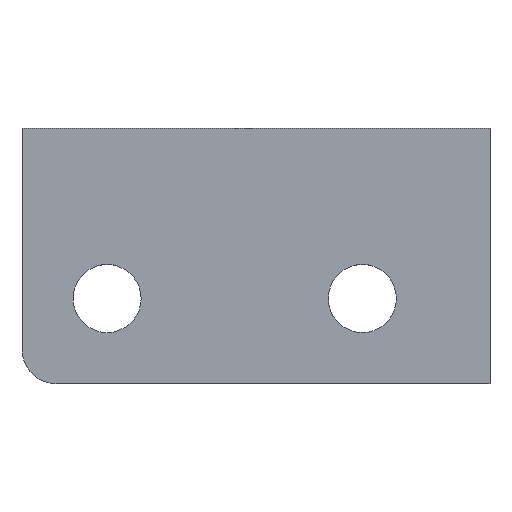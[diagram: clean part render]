
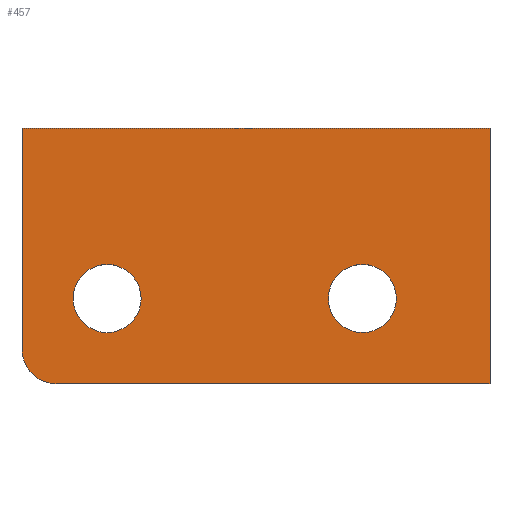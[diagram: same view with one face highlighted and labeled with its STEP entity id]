
A CAD part, top view. The second image highlights one B-rep face of the part: STEP entity #457.
In plain terms, the highlighted planar face has unit normal (0, 0, 1).
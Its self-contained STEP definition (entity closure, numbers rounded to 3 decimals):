
#218=CIRCLE('',#440,8.);
#219=CIRCLE('',#441,8.);
#220=CIRCLE('',#442,8.);
#236=ORIENTED_EDGE('',*,*,#311,.F.);
#237=ORIENTED_EDGE('',*,*,#312,.T.);
#238=ORIENTED_EDGE('',*,*,#301,.T.);
#239=ORIENTED_EDGE('',*,*,#309,.F.);
#240=ORIENTED_EDGE('',*,*,#313,.T.);
#241=ORIENTED_EDGE('',*,*,#314,.F.);
#242=ORIENTED_EDGE('',*,*,#315,.F.);
#261=VECTOR('',#352,1.);
#266=VECTOR('',#367,1.);
#268=VECTOR('',#371,1.);
#269=VECTOR('',#372,1.);
#274=LINE('',#398,#261);
#279=LINE('',#414,#266);
#281=LINE('',#419,#268);
#282=LINE('',#420,#269);
#287=VERTEX_POINT('',#395);
#288=VERTEX_POINT('',#397);
#294=VERTEX_POINT('',#413);
#295=VERTEX_POINT('',#417);
#296=VERTEX_POINT('',#418);
#297=VERTEX_POINT('',#422);
#298=VERTEX_POINT('',#424);
#301=EDGE_CURVE('',#288,#287,#274,.T.);
#309=EDGE_CURVE('',#294,#287,#279,.T.);
#311=EDGE_CURVE('',#295,#296,#281,.T.);
#312=EDGE_CURVE('',#295,#288,#282,.T.);
#313=EDGE_CURVE('',#294,#296,#218,.T.);
#314=EDGE_CURVE('',#297,#297,#219,.T.);
#315=EDGE_CURVE('',#298,#298,#220,.T.);
#323=EDGE_LOOP('',(#236,#237,#238,#239,#240));
#324=EDGE_LOOP('',(#241));
#325=EDGE_LOOP('',(#242));
#338=FACE_BOUND('',#323,.T.);
#339=FACE_BOUND('',#324,.T.);
#340=FACE_BOUND('',#325,.T.);
#352=DIRECTION('',(-110.,0.,0.));
#367=DIRECTION('',(0.,52.,0.));
#369=DIRECTION('',(0.,0.,1.));
#370=DIRECTION('',(0.,-1.,0.));
#371=DIRECTION('',(-102.,0.,0.));
#372=DIRECTION('',(0.,60.,0.));
#373=DIRECTION('',(0.,0.,1.));
#374=DIRECTION('',(0.,-8.,0.));
#375=DIRECTION('',(0.,0.,1.));
#376=DIRECTION('',(0.,-8.,0.));
#377=DIRECTION('',(0.,0.,1.));
#378=DIRECTION('',(0.,-8.,0.));
#395=CARTESIAN_POINT('',(0.,30.,4.));
#397=CARTESIAN_POINT('',(110.,30.,4.));
#398=CARTESIAN_POINT('',(110.,30.,4.));
#413=CARTESIAN_POINT('',(0.,-22.,4.));
#414=CARTESIAN_POINT('',(0.,-22.,4.));
#416=CARTESIAN_POINT('',(110.,30.,4.));
#417=CARTESIAN_POINT('',(110.,-30.,4.));
#418=CARTESIAN_POINT('',(8.,-30.,4.));
#419=CARTESIAN_POINT('',(110.,-30.,4.));
#420=CARTESIAN_POINT('',(110.,-30.,4.));
#421=CARTESIAN_POINT('',(8.,-22.,4.));
#422=CARTESIAN_POINT('',(20.,-18.,4.));
#423=CARTESIAN_POINT('',(20.,-10.,4.));
#424=CARTESIAN_POINT('',(80.,-18.,4.));
#425=CARTESIAN_POINT('',(80.,-10.,4.));
#439=AXIS2_PLACEMENT_3D('',#416,#369,#370);
#440=AXIS2_PLACEMENT_3D('',#421,#373,#374);
#441=AXIS2_PLACEMENT_3D('',#423,#375,#376);
#442=AXIS2_PLACEMENT_3D('',#425,#377,#378);
#451=PLANE('',#439);
#457=ADVANCED_FACE('',(#338,#339,#340),#451,.T.);
